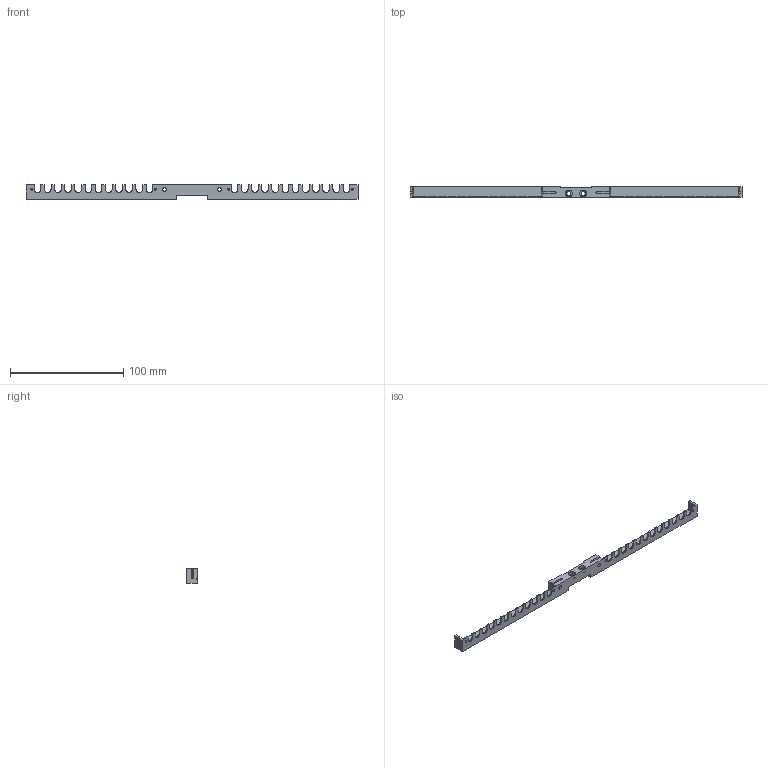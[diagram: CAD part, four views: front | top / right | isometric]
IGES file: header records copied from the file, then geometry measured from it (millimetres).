
Start section: SolidWorks IGES file using analytic representation for surfaces
Global section: file name: \\tornado\ProjectLibrary\900028-Environmental Sample Processor-2001\spectra processor add on\SPECTRA PROCESSOR.IGS; native system: SolidWorks 2005 by SolidWorks Corporation; preprocessor: SolidWorks 2005 by SolidWorks Corporation; author: mob; date: 050407.103911; units: inch
Bounding box: 293.62 x 9.14 x 12.7 mm (x, y, z)
Surface area: 12467.6 mm2 (no closed solid volume)
Topology: 0 solids, 0 shells, 219 faces, 3188 edges, 3188 vertices
Faces by surface type: bspline 116, revolution 103
